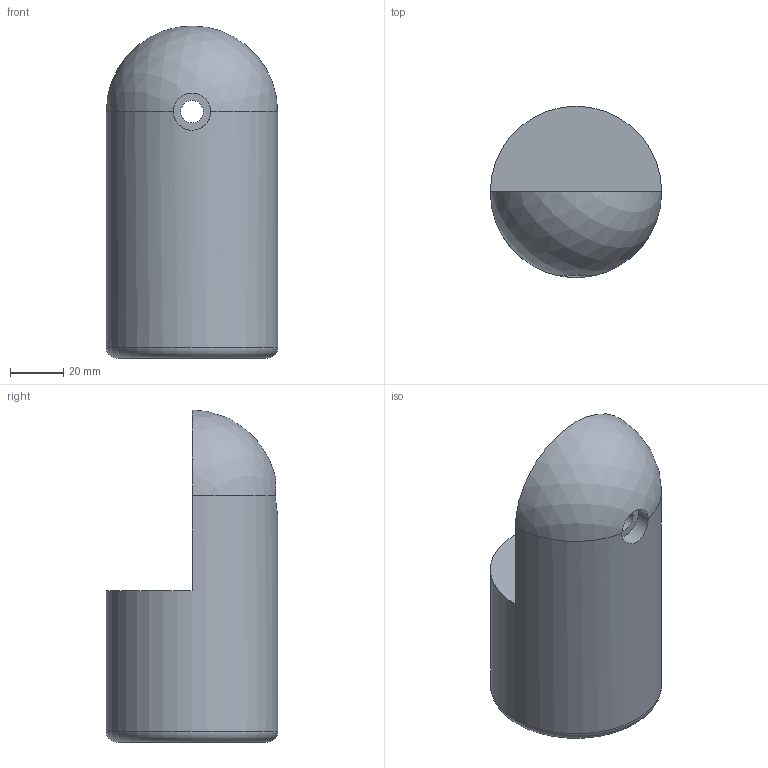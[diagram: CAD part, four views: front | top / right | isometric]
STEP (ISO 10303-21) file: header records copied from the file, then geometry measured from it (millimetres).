
FILE_DESCRIPTION(/* description */ ('FRP HANDRAIL FITTING'),/* implementation_level */ '2;1');
FILE_NAME(/* name */ 'C:\Users\Callum\The Trustee for INKSTONE UNIT TRUST\GRP Australia - Documents\8 Drawings\Handrails\3D Models\Handrail Fittings STEP\MH-2 Flex.stp',/* time_stamp */ '2022-09-15T10:56:46+10:00',/* author */ ('Callum'),/* organization */ (''),/* preprocessor_version */ 'ST-DEVELOPER v18.1',/* originating_system */ 'Autodesk Inventor 2022',/* authorisation */ '');
FILE_SCHEMA (('AUTOMOTIVE_DESIGN { 1 0 10303 214 3 1 1 }'));
Length unit declared in the file: millimetre
Products named in the file (1): MH-2 Flex
Bounding box: 64.5 x 64.5 x 125 mm (x, y, z)
Volume: 178555.2 mm3; surface area: 35604 mm2
Topology: 1 solids, 1 shells, 11 faces, 23 edges, 16 vertices
Faces by surface type: plane 5, cylinder 4, torus 1, sphere 1
Full cylindrical faces by diameter (mm): 8.5 x1, 14 x1, 50 x1, 64.5 x1
Entity records: 375 total; most frequent: CARTESIAN_POINT 69, DIRECTION 59, ORIENTED_EDGE 46, AXIS2_PLACEMENT_3D 26, EDGE_CURVE 23, VERTEX_POINT 15, EDGE_LOOP 14, CIRCLE 14
